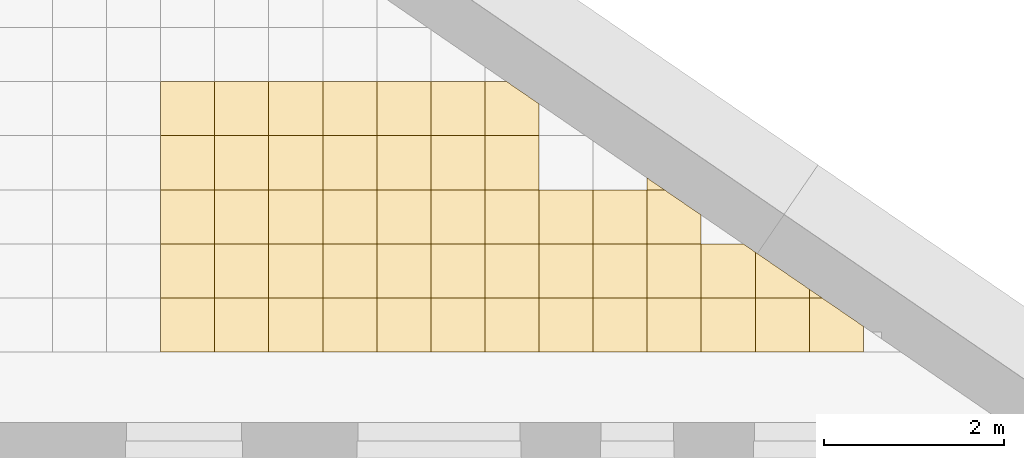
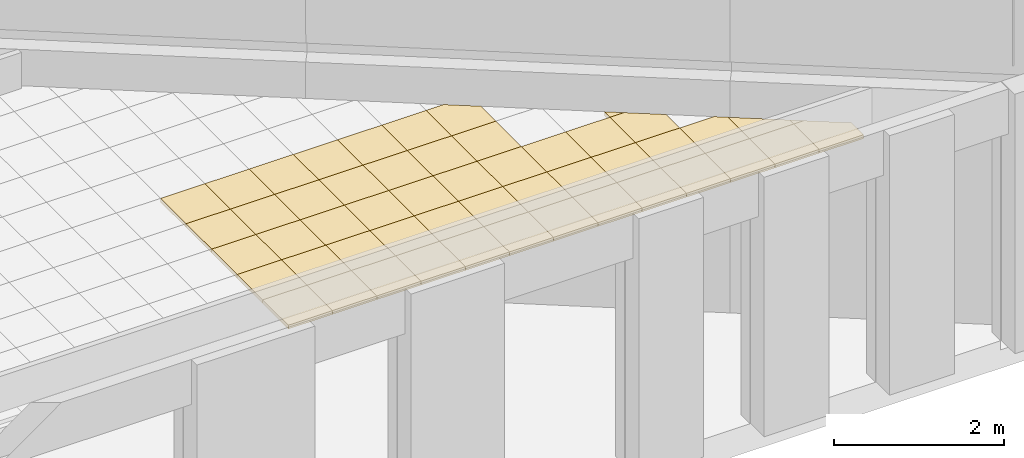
# One storey, part 77 of 79: 51 coverings.
"""IFC2X3 building model written with IfcOpenShell, lengths in millimetres."""

from ifc_helpers import new_model, entity, si_unit, converted_unit, derived_unit, money_unit, direction, frame, origin_with_axes, place, context, subcontext, project, spatial, faceted_brep, material, material_list, type_object, element, save


model = new_model("IFC2X3")

# Units and contexts
model_context = context("Model", 3, precision=0.01, world=origin_with_axes(), true_north=direction((0.0, 1.0)))
body_context = subcontext(model_context, "Body", "Model", "MODEL_VIEW")
ifc_project = project(units=[si_unit("LENGTHUNIT", "METRE", prefix="MILLI"), si_unit("AREAUNIT", "SQUARE_METRE"), si_unit("VOLUMEUNIT", "CUBIC_METRE"), converted_unit("PLANEANGLEUNIT", "DEGREE", entity("IfcPlaneAngleMeasure", 0.0174532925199), si_unit("PLANEANGLEUNIT", "RADIAN"), dimensions=[0, 0, 0, 0, 0, 0, 0]), si_unit("SOLIDANGLEUNIT", "STERADIAN"), money_unit("EUR"), converted_unit("TIMEUNIT", "Year", entity("IfcTimeMeasure", 31556926.0), si_unit("TIMEUNIT", "SECOND"), dimensions=[0, 0, 1, 0, 0, 0, 0]), si_unit("MASSUNIT", "GRAM", prefix="KILO"), si_unit("THERMODYNAMICTEMPERATUREUNIT", "DEGREE_CELSIUS"), si_unit("LUMINOUSINTENSITYUNIT", "LUMEN"), si_unit("ENERGYUNIT", "JOULE", prefix="MEGA"), derived_unit("THERMALCONDUCTANCEUNIT", [(si_unit("POWERUNIT", "WATT"), 1), (si_unit("LENGTHUNIT", "METRE"), -1), (si_unit("THERMODYNAMICTEMPERATUREUNIT", "KELVIN"), -1)]), derived_unit("SPECIFICHEATCAPACITYUNIT", [(si_unit("ENERGYUNIT", "JOULE"), 1), (si_unit("MASSUNIT", "GRAM", prefix="KILO"), -1), (si_unit("THERMODYNAMICTEMPERATUREUNIT", "KELVIN"), -1)]), derived_unit("MASSDENSITYUNIT", [(si_unit("MASSUNIT", "GRAM", prefix="KILO"), 1), (si_unit("VOLUMEUNIT", "CUBIC_METRE"), -1)])], contexts=[model_context])

# Site, building, storey
site_placement = place(None, origin_with_axes())
site = spatial("IfcSite", under=ifc_project, at=site_placement, Name="L.Koidula tn 11b", CompositionType="ELEMENT")
building_placement = place(site_placement, origin_with_axes())
building = spatial("IfcBuilding", under=site, at=building_placement, Name="Rakvere Riigigümnaasium", CompositionType="ELEMENT")
storey_placement = place(building_placement, frame((0.0, 0.0, 3720.0), z_axis=(0.0, 0.0, 1.0), x_axis=(1.0, 0.0, 0.0)))
storey = spatial("IfcBuildingStorey", under=building, at=storey_placement, Name="2.korrus +3,72", CompositionType="ELEMENT", Elevation=3720.0)

# Coverings
ifc_material_1 = material(Name="Karkass")
ifc_material_2 = material(Name="Kipsplaat")
ifc_material_list_1 = material_list([ifc_material_1, ifc_material_2])
covering_type_1 = type_object("IfcCoveringType", Name="SA-LV-Kips-moodul 55", PredefinedType="CEILING")
for number, where, z_axis, x_axis, name in (
    (1, (97109.8848284, 6290.45359412, 2750.0), (0.0, 0.0, 1.0), (1.0, 0.0, 0.0), "L-03"),
    (2, (98309.8847768, 6890.45359412, 2750.0), (0.0, 0.0, 1.0), (1.0, 0.0, 0.0), "L-03"),
):
    element("IfcCovering", number, at=place(storey_placement, frame(where, z_axis=z_axis, x_axis=x_axis)), inside=storey, type_object=covering_type_1, material=ifc_material_list_1, Name=name, PredefinedType="CEILING", context=body_context, shape_type="Brep", body=[
        faceted_brep([(600.0, 0.0, 12.5), (600.0, 0.0, 54.5), (0.0, 0.0, 54.5), (0.0, 0.0, 12.5), (600.0, 600.0, 12.5), (600.0, 600.0, 54.5), (0.0, 600.0, 54.5), (0.0, 600.0, 12.5)], [[[0, 1, 2, 3]], [[4, 5, 1, 0]], [[2, 1, 5, 6]], [[3, 2, 6, 7]], [[3, 7, 4, 0]], [[7, 6, 5, 4]]]),
        faceted_brep([(0.0, 0.0, 0.0), (600.0, 0.0, 0.0), (600.0, 0.0, 12.5), (0.0, 0.0, 12.5), (0.0, 600.0, 0.0), (600.0, 600.0, 0.0), (600.0, 600.0, 12.5), (0.0, 600.0, 12.5)], [[[0, 1, 2, 3]], [[0, 4, 5, 1]], [[1, 5, 6, 2]], [[3, 2, 6, 7]], [[4, 0, 3, 7]], [[5, 4, 7, 6]]]),
    ])
covering_1_placement = place(storey_placement, frame((96509.8848801, 7490.45359412, 2750.0), z_axis=(0.0, 0.0, 1.0), x_axis=(1.0, 0.0, 0.0)))
element("IfcCovering", 3, at=covering_1_placement, inside=storey, type_object=covering_type_1, material=ifc_material_list_1, Name="L-03", PredefinedType="CEILING", context=body_context, shape_type="Brep", body=[
    faceted_brep([(599.999948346, 0.0, 12.5), (599.999948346, 0.0, 54.5), (0.0, 0.0, 54.5), (0.0, 0.0, 12.5), (599.999948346, 600.0, 12.5), (599.999948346, 600.0, 54.5), (0.0, 600.0, 54.5), (0.0, 600.0, 12.5)], [[[0, 1, 2, 3]], [[4, 5, 1, 0]], [[2, 1, 5, 6]], [[3, 2, 6, 7]], [[3, 7, 4, 0]], [[7, 6, 5, 4]]]),
    faceted_brep([(0.0, 0.0, 0.0), (599.999948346, 0.0, 0.0), (599.999948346, 0.0, 12.5), (0.0, 0.0, 12.5), (0.0, 600.0, 0.0), (599.999948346, 600.0, 0.0), (599.999948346, 600.0, 12.5), (0.0, 600.0, 12.5)], [[[0, 1, 2, 3]], [[0, 4, 5, 1]], [[1, 5, 6, 2]], [[3, 2, 6, 7]], [[4, 0, 3, 7]], [[5, 4, 7, 6]]]),
])
covering_2_placement = place(storey_placement, frame((98309.8847768, 7490.45359412, 2750.0), z_axis=(0.0, 0.0, 1.0), x_axis=(1.0, 0.0, 0.0)))
element("IfcCovering", 4, at=covering_2_placement, inside=storey, type_object=covering_type_1, material=ifc_material_list_1, Name="L-03", PredefinedType="CEILING", context=body_context, shape_type="Brep", body=[
    faceted_brep([(600.0, 0.0, 12.5), (600.0, 0.0, 54.5), (0.0, 0.0, 54.5), (0.0, 0.0, 12.5), (600.0, 600.0, 12.5), (600.0, 600.0, 54.5), (0.0, 600.0, 54.5), (0.0, 600.0, 12.5)], [[[0, 1, 2, 3]], [[4, 5, 1, 0]], [[2, 1, 5, 6]], [[3, 2, 6, 7]], [[3, 7, 4, 0]], [[7, 6, 5, 4]]]),
    faceted_brep([(0.0, 0.0, 0.0), (600.0, 0.0, 0.0), (600.0, 0.0, 12.5), (0.0, 0.0, 12.5), (0.0, 600.0, 0.0), (600.0, 600.0, 0.0), (600.0, 600.0, 12.5), (0.0, 600.0, 12.5)], [[[0, 1, 2, 3]], [[0, 4, 5, 1]], [[1, 5, 6, 2]], [[3, 2, 6, 7]], [[4, 0, 3, 7]], [[5, 4, 7, 6]]]),
])
covering_3_placement = place(storey_placement, frame((96509.8848801, 8090.45359412, 2750.0), z_axis=(0.0, 0.0, 1.0), x_axis=(1.0, 0.0, 0.0)))
element("IfcCovering", 5, at=covering_3_placement, inside=storey, type_object=covering_type_1, material=ifc_material_list_1, Name="L-03", PredefinedType="CEILING", context=body_context, shape_type="Brep", body=[
    faceted_brep([(599.999948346, 0.0, 12.5), (599.999948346, 0.0, 54.5), (0.0, 0.0, 54.5), (0.0, 0.0, 12.5), (599.999948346, 600.0, 12.5), (599.999948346, 600.0, 54.5), (0.0, 600.0, 54.5), (0.0, 600.0, 12.5)], [[[0, 1, 2, 3]], [[4, 5, 1, 0]], [[2, 1, 5, 6]], [[3, 2, 6, 7]], [[3, 7, 4, 0]], [[7, 6, 5, 4]]]),
    faceted_brep([(0.0, 0.0, 0.0), (599.999948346, 0.0, 0.0), (599.999948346, 0.0, 12.5), (0.0, 0.0, 12.5), (0.0, 600.0, 0.0), (599.999948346, 600.0, 0.0), (599.999948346, 600.0, 12.5), (0.0, 600.0, 12.5)], [[[0, 1, 2, 3]], [[0, 4, 5, 1]], [[1, 5, 6, 2]], [[3, 2, 6, 7]], [[4, 0, 3, 7]], [[5, 4, 7, 6]]]),
])
covering_4_placement = place(storey_placement, frame((97109.8848284, 8090.45359412, 2750.0), z_axis=(0.0, 0.0, 1.0), x_axis=(1.0, 0.0, 0.0)))
element("IfcCovering", 6, at=covering_4_placement, inside=storey, type_object=covering_type_1, material=ifc_material_list_1, Name="L-03", PredefinedType="CEILING", context=body_context, shape_type="Brep", body=[
    faceted_brep([(600.0, 0.0, 12.5), (600.0, 0.0, 54.5), (0.0, 0.0, 54.5), (0.0, 0.0, 12.5), (600.0, 600.0, 12.5), (600.0, 600.0, 54.5), (0.0, 600.0, 54.5), (0.0, 600.0, 12.5)], [[[0, 1, 2, 3]], [[4, 5, 1, 0]], [[2, 1, 5, 6]], [[3, 2, 6, 7]], [[3, 7, 4, 0]], [[7, 6, 5, 4]]]),
    faceted_brep([(0.0, 0.0, 0.0), (600.0, 0.0, 0.0), (600.0, 0.0, 12.5), (0.0, 0.0, 12.5), (0.0, 600.0, 0.0), (600.0, 600.0, 0.0), (600.0, 600.0, 12.5), (0.0, 600.0, 12.5)], [[[0, 1, 2, 3]], [[0, 4, 5, 1]], [[1, 5, 6, 2]], [[3, 2, 6, 7]], [[4, 0, 3, 7]], [[5, 4, 7, 6]]]),
])
covering_5_placement = place(storey_placement, frame((96509.8848801, 8690.45359412, 2750.0), z_axis=(0.0, 0.0, 1.0), x_axis=(1.0, 0.0, 0.0)))
element("IfcCovering", 7, at=covering_5_placement, inside=storey, type_object=covering_type_1, material=ifc_material_list_1, Name="L-03", PredefinedType="CEILING", context=body_context, shape_type="Brep", body=[
    faceted_brep([(599.999948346, 0.0, 12.5), (599.999948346, 0.0, 54.5), (0.0, 0.0, 54.5), (0.0, 0.0, 12.5), (599.999948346, 600.0, 12.5), (599.999948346, 600.0, 54.5), (0.0, 600.0, 54.5), (0.0, 600.0, 12.5)], [[[0, 1, 2, 3]], [[4, 5, 1, 0]], [[2, 1, 5, 6]], [[3, 2, 6, 7]], [[3, 7, 4, 0]], [[7, 6, 5, 4]]]),
    faceted_brep([(0.0, 0.0, 0.0), (599.999948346, 0.0, 0.0), (599.999948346, 0.0, 12.5), (0.0, 0.0, 12.5), (0.0, 600.0, 0.0), (599.999948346, 600.0, 0.0), (599.999948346, 600.0, 12.5), (0.0, 600.0, 12.5)], [[[0, 1, 2, 3]], [[0, 4, 5, 1]], [[1, 5, 6, 2]], [[3, 2, 6, 7]], [[4, 0, 3, 7]], [[5, 4, 7, 6]]]),
])
covering_6_placement = place(storey_placement, frame((97109.8848284, 8690.45359412, 2750.0), z_axis=(0.0, 0.0, 1.0), x_axis=(1.0, 0.0, 0.0)))
element("IfcCovering", 8, at=covering_6_placement, inside=storey, type_object=covering_type_1, material=ifc_material_list_1, Name="L-03", PredefinedType="CEILING", context=body_context, shape_type="Brep", body=[
    faceted_brep([(600.0, 0.0, 12.5), (600.0, 0.0, 54.5), (0.0, 0.0, 54.5), (0.0, 0.0, 12.5), (600.0, 353.762002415, 12.5), (600.0, 353.762002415, 54.5), (240.988349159, 600.0, 54.5), (0.0, 600.0, 54.5), (0.0, 600.0, 12.5), (240.988349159, 600.0, 12.5)], [[[0, 1, 2, 3]], [[4, 5, 1, 0]], [[2, 1, 5, 6, 7]], [[3, 2, 7, 8]], [[3, 8, 9, 4, 0]], [[9, 6, 5, 4]], [[8, 7, 6, 9]]]),
    faceted_brep([(0.0, 0.0, 0.0), (600.0, 0.0, 0.0), (600.0, 0.0, 12.5), (0.0, 0.0, 12.5), (0.0, 600.0, 0.0), (240.988349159, 600.0, 0.0), (600.0, 353.762002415, 0.0), (600.0, 353.762002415, 12.5), (240.988349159, 600.0, 12.5), (0.0, 600.0, 12.5)], [[[0, 1, 2, 3]], [[0, 4, 5, 6, 1]], [[1, 6, 7, 2]], [[3, 2, 7, 8, 9]], [[4, 0, 3, 9]], [[5, 4, 9, 8]], [[6, 5, 8, 7]]]),
])
covering_7_placement = place(storey_placement, frame((97109.8848284, 7490.45359412, 2750.0), z_axis=(0.0, 0.0, 1.0), x_axis=(1.0, 0.0, 0.0)))
element("IfcCovering", 9, at=covering_7_placement, inside=storey, type_object=covering_type_1, material=ifc_material_list_1, Name="L-03", PredefinedType="CEILING", context=body_context, shape_type="Brep", body=[
    faceted_brep([(600.0, 0.0, 12.5), (600.0, 0.0, 54.5), (0.0, 0.0, 54.5), (0.0, 0.0, 12.5), (600.0, 600.0, 12.5), (600.0, 600.0, 54.5), (0.0, 600.0, 54.5), (0.0, 600.0, 12.5)], [[[0, 1, 2, 3]], [[4, 5, 1, 0]], [[2, 1, 5, 6]], [[3, 2, 6, 7]], [[3, 7, 4, 0]], [[7, 6, 5, 4]]]),
    faceted_brep([(0.0, 0.0, 0.0), (600.0, 0.0, 0.0), (600.0, 0.0, 12.5), (0.0, 0.0, 12.5), (0.0, 600.0, 0.0), (600.0, 600.0, 0.0), (600.0, 600.0, 12.5), (0.0, 600.0, 12.5)], [[[0, 1, 2, 3]], [[0, 4, 5, 1]], [[1, 5, 6, 2]], [[3, 2, 6, 7]], [[4, 0, 3, 7]], [[5, 4, 7, 6]]]),
])
for number, where, z_axis, x_axis, name in (
    (10, (97709.8848284, 6890.45359412, 2750.0), (0.0, 0.0, 1.0), (1.0, 0.0, 0.0), "L-03"),
    (11, (97709.8848284, 6290.45359412, 2750.0), (0.0, 0.0, 1.0), (1.0, 0.0, 0.0), "L-03"),
    (12, (96509.8848801, 6890.45359412, 2750.0), (0.0, 0.0, 1.0), (1.0, 0.0, 0.0), "L-03"),
):
    element("IfcCovering", number, at=place(storey_placement, frame(where, z_axis=z_axis, x_axis=x_axis)), inside=storey, type_object=covering_type_1, material=ifc_material_list_1, Name=name, PredefinedType="CEILING", context=body_context, shape_type="Brep", body=[
        faceted_brep([(599.999948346, 0.0, 12.5), (599.999948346, 0.0, 54.5), (0.0, 0.0, 54.5), (0.0, 0.0, 12.5), (599.999948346, 600.0, 12.5), (599.999948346, 600.0, 54.5), (0.0, 600.0, 54.5), (0.0, 600.0, 12.5)], [[[0, 1, 2, 3]], [[4, 5, 1, 0]], [[2, 1, 5, 6]], [[3, 2, 6, 7]], [[3, 7, 4, 0]], [[7, 6, 5, 4]]]),
        faceted_brep([(0.0, 0.0, 0.0), (599.999948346, 0.0, 0.0), (599.999948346, 0.0, 12.5), (0.0, 0.0, 12.5), (0.0, 600.0, 0.0), (599.999948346, 600.0, 0.0), (599.999948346, 600.0, 12.5), (0.0, 600.0, 12.5)], [[[0, 1, 2, 3]], [[0, 4, 5, 1]], [[1, 5, 6, 2]], [[3, 2, 6, 7]], [[4, 0, 3, 7]], [[5, 4, 7, 6]]]),
    ])
for number, where, z_axis, x_axis, name in (
    (13, (99509.8847251, 6290.45359412, 2750.0), (0.0, 0.0, 1.0), (1.0, 0.0, 0.0), "L-03"),
    (14, (94709.8849318, 6890.45359412, 2750.0), (0.0, 0.0, 1.0), (1.0, 0.0, 0.0), "L-03"),
):
    element("IfcCovering", number, at=place(storey_placement, frame(where, z_axis=z_axis, x_axis=x_axis)), inside=storey, type_object=covering_type_1, material=ifc_material_list_1, Name=name, PredefinedType="CEILING", context=body_context, shape_type="Brep", body=[
        faceted_brep([(600.0, 0.0, 12.5), (600.0, 0.0, 54.5), (0.0, 0.0, 54.5), (0.0, 0.0, 12.5), (600.0, 600.0, 12.5), (600.0, 600.0, 54.5), (0.0, 600.0, 54.5), (0.0, 600.0, 12.5)], [[[0, 1, 2, 3]], [[4, 5, 1, 0]], [[2, 1, 5, 6]], [[3, 2, 6, 7]], [[3, 7, 4, 0]], [[7, 6, 5, 4]]]),
        faceted_brep([(0.0, 0.0, 0.0), (600.0, 0.0, 0.0), (600.0, 0.0, 12.5), (0.0, 0.0, 12.5), (0.0, 600.0, 0.0), (600.0, 600.0, 0.0), (600.0, 600.0, 12.5), (0.0, 600.0, 12.5)], [[[0, 1, 2, 3]], [[0, 4, 5, 1]], [[1, 5, 6, 2]], [[3, 2, 6, 7]], [[4, 0, 3, 7]], [[5, 4, 7, 6]]]),
    ])
covering_8_placement = place(storey_placement, frame((97709.8848284, 7490.45359412, 2750.0), z_axis=(0.0, 0.0, 1.0), x_axis=(1.0, 0.0, 0.0)))
element("IfcCovering", 15, at=covering_8_placement, inside=storey, type_object=covering_type_1, material=ifc_material_list_1, Name="L-03", PredefinedType="CEILING", context=body_context, shape_type="Brep", body=[
    faceted_brep([(599.999948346, 0.0, 12.5), (599.999948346, 0.0, 54.5), (0.0, 0.0, 54.5), (0.0, 0.0, 12.5), (599.999948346, 600.0, 12.5), (599.999948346, 600.0, 54.5), (0.0, 600.0, 54.5), (0.0, 600.0, 12.5)], [[[0, 1, 2, 3]], [[4, 5, 1, 0]], [[2, 1, 5, 6]], [[3, 2, 6, 7]], [[3, 7, 4, 0]], [[7, 6, 5, 4]]]),
    faceted_brep([(0.0, 0.0, 0.0), (599.999948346, 0.0, 0.0), (599.999948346, 0.0, 12.5), (0.0, 0.0, 12.5), (0.0, 600.0, 0.0), (599.999948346, 600.0, 0.0), (599.999948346, 600.0, 12.5), (0.0, 600.0, 12.5)], [[[0, 1, 2, 3]], [[0, 4, 5, 1]], [[1, 5, 6, 2]], [[3, 2, 6, 7]], [[4, 0, 3, 7]], [[5, 4, 7, 6]]]),
])
for number, where, z_axis, x_axis, name in (
    (16, (94709.8849318, 6290.45359412, 2750.0), (0.0, 0.0, 1.0), (1.0, 0.0, 0.0), "L-03"),
    (17, (95909.8848801, 7490.45359412, 2750.0), (0.0, 0.0, 1.0), (1.0, 0.0, 0.0), "L-03"),
):
    element("IfcCovering", number, at=place(storey_placement, frame(where, z_axis=z_axis, x_axis=x_axis)), inside=storey, type_object=covering_type_1, material=ifc_material_list_1, Name=name, PredefinedType="CEILING", context=body_context, shape_type="Brep", body=[
        faceted_brep([(600.0, 0.0, 12.5), (600.0, 0.0, 54.5), (0.0, 0.0, 54.5), (0.0, 0.0, 12.5), (600.0, 600.0, 12.5), (600.0, 600.0, 54.5), (0.0, 600.0, 54.5), (0.0, 600.0, 12.5)], [[[0, 1, 2, 3]], [[4, 5, 1, 0]], [[2, 1, 5, 6]], [[3, 2, 6, 7]], [[3, 7, 4, 0]], [[7, 6, 5, 4]]]),
        faceted_brep([(0.0, 0.0, 0.0), (600.0, 0.0, 0.0), (600.0, 0.0, 12.5), (0.0, 0.0, 12.5), (0.0, 600.0, 0.0), (600.0, 600.0, 0.0), (600.0, 600.0, 12.5), (0.0, 600.0, 12.5)], [[[0, 1, 2, 3]], [[0, 4, 5, 1]], [[1, 5, 6, 2]], [[3, 2, 6, 7]], [[4, 0, 3, 7]], [[5, 4, 7, 6]]]),
    ])
covering_9_placement = place(storey_placement, frame((98909.8847768, 6890.45359412, 2750.0), z_axis=(0.0, 0.0, 1.0), x_axis=(1.0, 0.0, 0.0)))
element("IfcCovering", 18, at=covering_9_placement, inside=storey, type_object=covering_type_1, material=ifc_material_list_1, Name="L-03", PredefinedType="CEILING", context=body_context, shape_type="Brep", body=[
    faceted_brep([(599.999948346, 0.0, 12.5), (599.999948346, 0.0, 54.5), (0.0, 0.0, 54.5), (0.0, 0.0, 12.5), (599.999948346, 600.0, 12.5), (599.999948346, 600.0, 54.5), (0.0, 600.0, 54.5), (0.0, 600.0, 12.5)], [[[0, 1, 2, 3]], [[4, 5, 1, 0]], [[2, 1, 5, 6]], [[3, 2, 6, 7]], [[3, 7, 4, 0]], [[7, 6, 5, 4]]]),
    faceted_brep([(0.0, 0.0, 0.0), (599.999948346, 0.0, 0.0), (599.999948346, 0.0, 12.5), (0.0, 0.0, 12.5), (0.0, 600.0, 0.0), (599.999948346, 600.0, 0.0), (599.999948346, 600.0, 12.5), (0.0, 600.0, 12.5)], [[[0, 1, 2, 3]], [[0, 4, 5, 1]], [[1, 5, 6, 2]], [[3, 2, 6, 7]], [[4, 0, 3, 7]], [[5, 4, 7, 6]]]),
])
for number, where, z_axis, x_axis, name in (
    (19, (93509.8849834, 6290.45359412, 2750.0), (0.0, 0.0, 1.0), (1.0, 0.0, 0.0), "L-03"),
    (20, (95909.8848801, 8090.45359412, 2750.0), (0.0, 0.0, 1.0), (1.0, 0.0, 0.0), "L-03"),
):
    element("IfcCovering", number, at=place(storey_placement, frame(where, z_axis=z_axis, x_axis=x_axis)), inside=storey, type_object=covering_type_1, material=ifc_material_list_1, Name=name, PredefinedType="CEILING", context=body_context, shape_type="Brep", body=[
        faceted_brep([(600.0, 0.0, 12.5), (600.0, 0.0, 54.5), (0.0, 0.0, 54.5), (0.0, 0.0, 12.5), (600.0, 600.0, 12.5), (600.0, 600.0, 54.5), (0.0, 600.0, 54.5), (0.0, 600.0, 12.5)], [[[0, 1, 2, 3]], [[4, 5, 1, 0]], [[2, 1, 5, 6]], [[3, 2, 6, 7]], [[3, 7, 4, 0]], [[7, 6, 5, 4]]]),
        faceted_brep([(0.0, 0.0, 0.0), (600.0, 0.0, 0.0), (600.0, 0.0, 12.5), (0.0, 0.0, 12.5), (0.0, 600.0, 0.0), (600.0, 600.0, 0.0), (600.0, 600.0, 12.5), (0.0, 600.0, 12.5)], [[[0, 1, 2, 3]], [[0, 4, 5, 1]], [[1, 5, 6, 2]], [[3, 2, 6, 7]], [[4, 0, 3, 7]], [[5, 4, 7, 6]]]),
    ])
covering_10_placement = place(storey_placement, frame((100709.884673, 6290.45359412, 2750.0), z_axis=(0.0, 0.0, 1.0), x_axis=(1.0, 0.0, 0.0)))
element("IfcCovering", 21, at=covering_10_placement, inside=storey, type_object=covering_type_1, material=ifc_material_list_1, Name="L-03", PredefinedType="CEILING", context=body_context, shape_type="Brep", body=[
    faceted_brep([(600.0, 0.0, 12.5), (600.0, 0.0, 54.5), (0.0, 0.0, 54.5), (0.0, 0.0, 12.5), (600.0, 284.60252788, 12.5), (600.0, 284.60252788, 54.5), (140.154776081, 600.0, 54.5), (0.0, 600.0, 54.5), (0.0, 600.0, 12.5), (140.154776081, 600.0, 12.5)], [[[0, 1, 2, 3]], [[4, 5, 1, 0]], [[2, 1, 5, 6, 7]], [[3, 2, 7, 8]], [[3, 8, 9, 4, 0]], [[9, 6, 5, 4]], [[8, 7, 6, 9]]]),
    faceted_brep([(0.0, 0.0, 0.0), (600.0, 0.0, 0.0), (600.0, 0.0, 12.5), (0.0, 0.0, 12.5), (0.0, 600.0, 0.0), (140.154776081, 600.0, 0.0), (600.0, 284.60252788, 0.0), (600.0, 284.60252788, 12.5), (140.154776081, 600.0, 12.5), (0.0, 600.0, 12.5)], [[[0, 1, 2, 3]], [[0, 4, 5, 6, 1]], [[1, 6, 7, 2]], [[3, 2, 7, 8, 9]], [[4, 0, 3, 9]], [[5, 4, 9, 8]], [[6, 5, 8, 7]]]),
])
for number, where, z_axis, x_axis, name in (
    (22, (94709.8849318, 8090.45359412, 2750.0), (0.0, 0.0, 1.0), (1.0, 0.0, 0.0), "L-03"),
    (23, (97109.8848284, 6890.45359412, 2750.0), (0.0, 0.0, 1.0), (1.0, 0.0, 0.0), "L-03"),
    (24, (94709.8849318, 8690.45359412, 2750.0), (0.0, 0.0, 1.0), (1.0, 0.0, 0.0), "L-03"),
    (25, (93509.8849834, 6890.45359412, 2750.0), (0.0, 0.0, 1.0), (1.0, 0.0, 0.0), "L-03"),
    (26, (95909.8848801, 8690.45359412, 2750.0), (0.0, 0.0, 1.0), (1.0, 0.0, 0.0), "L-03"),
    (27, (94709.8849318, 7490.45359412, 2750.0), (0.0, 0.0, 1.0), (1.0, 0.0, 0.0), "L-03"),
    (28, (98309.8847768, 6290.45359412, 2750.0), (0.0, 0.0, 1.0), (1.0, 0.0, 0.0), "L-03"),
):
    element("IfcCovering", number, at=place(storey_placement, frame(where, z_axis=z_axis, x_axis=x_axis)), inside=storey, type_object=covering_type_1, material=ifc_material_list_1, Name=name, PredefinedType="CEILING", context=body_context, shape_type="Brep", body=[
        faceted_brep([(600.0, 0.0, 12.5), (600.0, 0.0, 54.5), (0.0, 0.0, 54.5), (0.0, 0.0, 12.5), (600.0, 600.0, 12.5), (600.0, 600.0, 54.5), (0.0, 600.0, 54.5), (0.0, 600.0, 12.5)], [[[0, 1, 2, 3]], [[4, 5, 1, 0]], [[2, 1, 5, 6]], [[3, 2, 6, 7]], [[3, 7, 4, 0]], [[7, 6, 5, 4]]]),
        faceted_brep([(0.0, 0.0, 0.0), (600.0, 0.0, 0.0), (600.0, 0.0, 12.5), (0.0, 0.0, 12.5), (0.0, 600.0, 0.0), (600.0, 600.0, 0.0), (600.0, 600.0, 12.5), (0.0, 600.0, 12.5)], [[[0, 1, 2, 3]], [[0, 4, 5, 1]], [[1, 5, 6, 2]], [[3, 2, 6, 7]], [[4, 0, 3, 7]], [[5, 4, 7, 6]]]),
    ])
covering_11_placement = place(storey_placement, frame((95309.8849318, 6890.45359412, 2750.0), z_axis=(0.0, 0.0, 1.0), x_axis=(1.0, 0.0, 0.0)))
element("IfcCovering", 29, at=covering_11_placement, inside=storey, type_object=covering_type_1, material=ifc_material_list_1, Name="L-03", PredefinedType="CEILING", context=body_context, shape_type="Brep", body=[
    faceted_brep([(599.999948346, 0.0, 12.5), (599.999948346, 0.0, 54.5), (0.0, 0.0, 54.5), (0.0, 0.0, 12.5), (599.999948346, 600.0, 12.5), (599.999948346, 600.0, 54.5), (0.0, 600.0, 54.5), (0.0, 600.0, 12.5)], [[[0, 1, 2, 3]], [[4, 5, 1, 0]], [[2, 1, 5, 6]], [[3, 2, 6, 7]], [[3, 7, 4, 0]], [[7, 6, 5, 4]]]),
    faceted_brep([(0.0, 0.0, 0.0), (599.999948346, 0.0, 0.0), (599.999948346, 0.0, 12.5), (0.0, 0.0, 12.5), (0.0, 600.0, 0.0), (599.999948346, 600.0, 0.0), (599.999948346, 600.0, 12.5), (0.0, 600.0, 12.5)], [[[0, 1, 2, 3]], [[0, 4, 5, 1]], [[1, 5, 6, 2]], [[3, 2, 6, 7]], [[4, 0, 3, 7]], [[5, 4, 7, 6]]]),
])
covering_12_placement = place(storey_placement, frame((98909.8847768, 7490.45359412, 2750.0), z_axis=(0.0, 0.0, 1.0), x_axis=(1.0, 0.0, 0.0)))
element("IfcCovering", 30, at=covering_12_placement, inside=storey, type_object=covering_type_1, material=ifc_material_list_1, Name="L-03", PredefinedType="CEILING", context=body_context, shape_type="Brep", body=[
    faceted_brep([(599.999948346, 0.0, 12.5), (599.999948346, 0.0, 54.5), (0.0, 0.0, 54.5), (0.0, 0.0, 12.5), (599.999948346, 319.18327865, 12.5), (599.999948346, 319.18327865, 54.5), (190.572988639, 600.0, 54.5), (0.0, 600.0, 54.5), (0.0, 600.0, 12.5), (190.572988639, 600.0, 12.5)], [[[0, 1, 2, 3]], [[4, 5, 1, 0]], [[2, 1, 5, 6, 7]], [[3, 2, 7, 8]], [[3, 8, 9, 4, 0]], [[9, 6, 5, 4]], [[8, 7, 6, 9]]]),
    faceted_brep([(0.0, 0.0, 0.0), (599.999948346, 0.0, 0.0), (599.999948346, 0.0, 12.5), (0.0, 0.0, 12.5), (0.0, 600.0, 0.0), (190.572988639, 600.0, 0.0), (599.999948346, 319.18327865, 0.0), (599.999948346, 319.18327865, 12.5), (190.572988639, 600.0, 12.5), (0.0, 600.0, 12.5)], [[[0, 1, 2, 3]], [[0, 4, 5, 6, 1]], [[1, 6, 7, 2]], [[3, 2, 7, 8, 9]], [[4, 0, 3, 9]], [[5, 4, 9, 8]], [[6, 5, 8, 7]]]),
])
covering_13_placement = place(storey_placement, frame((95309.8849318, 6290.45359412, 2750.0), z_axis=(0.0, 0.0, 1.0), x_axis=(1.0, 0.0, 0.0)))
element("IfcCovering", 31, at=covering_13_placement, inside=storey, type_object=covering_type_1, material=ifc_material_list_1, Name="L-03", PredefinedType="CEILING", context=body_context, shape_type="Brep", body=[
    faceted_brep([(599.999948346, 0.0, 12.5), (599.999948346, 0.0, 54.5), (0.0, 0.0, 54.5), (0.0, 0.0, 12.5), (599.999948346, 600.0, 12.5), (599.999948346, 600.0, 54.5), (0.0, 600.0, 54.5), (0.0, 600.0, 12.5)], [[[0, 1, 2, 3]], [[4, 5, 1, 0]], [[2, 1, 5, 6]], [[3, 2, 6, 7]], [[3, 7, 4, 0]], [[7, 6, 5, 4]]]),
    faceted_brep([(0.0, 0.0, 0.0), (599.999948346, 0.0, 0.0), (599.999948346, 0.0, 12.5), (0.0, 0.0, 12.5), (0.0, 600.0, 0.0), (599.999948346, 600.0, 0.0), (599.999948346, 600.0, 12.5), (0.0, 600.0, 12.5)], [[[0, 1, 2, 3]], [[0, 4, 5, 1]], [[1, 5, 6, 2]], [[3, 2, 6, 7]], [[4, 0, 3, 7]], [[5, 4, 7, 6]]]),
])
covering_14_placement = place(storey_placement, frame((98909.8847768, 8090.45359412, 2750.0), z_axis=(0.0, 0.0, 1.0), x_axis=(1.0, 0.0, 0.0)))
element("IfcCovering", 32, at=covering_14_placement, inside=storey, type_object=covering_type_1, material=ifc_material_list_1, Name="L-03", PredefinedType="CEILING", context=body_context, shape_type="Brep", body=[
    faceted_brep([(190.572988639, 0.0, 12.5), (190.572988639, 0.0, 54.5), (0.0, 0.0, 54.5), (0.0, 0.0, 12.5), (0.0, 130.70971654, 12.5), (0.0, 130.70971654, 54.5)], [[[0, 1, 2, 3]], [[4, 5, 1, 0]], [[2, 1, 5]], [[3, 2, 5, 4]], [[3, 4, 0]]]),
    faceted_brep([(0.0, 0.0, 0.0), (190.572988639, 0.0, 0.0), (190.572988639, 0.0, 12.5), (0.0, 0.0, 12.5), (0.0, 130.70971654, 0.0), (0.0, 130.70971654, 12.5)], [[[0, 1, 2, 3]], [[0, 4, 1]], [[1, 4, 5, 2]], [[3, 2, 5]], [[4, 0, 3, 5]]]),
])
covering_15_placement = place(storey_placement, frame((100109.884725, 6890.45359412, 2750.0), z_axis=(0.0, 0.0, 1.0), x_axis=(1.0, 0.0, 0.0)))
element("IfcCovering", 33, at=covering_15_placement, inside=storey, type_object=covering_type_1, material=ifc_material_list_1, Name="L-03", PredefinedType="CEILING", context=body_context, shape_type="Brep", body=[
    faceted_brep([(599.992801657, 0.0, 12.5), (599.992801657, 0.0, 54.5), (0.0, 0.0, 54.5), (0.0, 0.0, 12.5), (599.992801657, 96.1357947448, 12.5), (599.992801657, 96.1357947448, 54.5), (0.0, 507.657330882, 54.5), (0.0, 507.657330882, 12.5)], [[[0, 1, 2, 3]], [[4, 5, 1, 0]], [[2, 1, 5, 6]], [[3, 2, 6, 7]], [[3, 7, 4, 0]], [[7, 6, 5, 4]]]),
    faceted_brep([(0.0, 0.0, 0.0), (599.992801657, 0.0, 0.0), (599.992801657, 0.0, 12.5), (0.0, 0.0, 12.5), (0.0, 507.657330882, 0.0), (599.992801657, 96.1357947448, 0.0), (599.992801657, 96.1357947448, 12.5), (0.0, 507.657330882, 12.5)], [[[0, 1, 2, 3]], [[0, 4, 5, 1]], [[1, 5, 6, 2]], [[3, 2, 6, 7]], [[4, 0, 3, 7]], [[5, 4, 7, 6]]]),
])
covering_16_placement = place(storey_placement, frame((99509.8847251, 6890.45359412, 2750.0), z_axis=(0.0, 0.0, 1.0), x_axis=(1.0, 0.0, 0.0)))
element("IfcCovering", 34, at=covering_16_placement, inside=storey, type_object=covering_type_1, material=ifc_material_list_1, Name="L-03", PredefinedType="CEILING", context=body_context, shape_type="Brep", body=[
    faceted_brep([(600.0, 0.0, 12.5), (600.0, 0.0, 54.5), (0.0, 0.0, 54.5), (0.0, 0.0, 12.5), (600.0, 507.65543909, 12.5), (600.0, 507.65543909, 54.5), (465.362886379, 600.0, 54.5), (0.0, 600.0, 54.5), (0.0, 600.0, 12.5), (465.362886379, 600.0, 12.5)], [[[0, 1, 2, 3]], [[4, 5, 1, 0]], [[2, 1, 5, 6, 7]], [[3, 2, 7, 8]], [[3, 8, 9, 4, 0]], [[9, 6, 5, 4]], [[8, 7, 6, 9]]]),
    faceted_brep([(0.0, 0.0, 0.0), (600.0, 0.0, 0.0), (600.0, 0.0, 12.5), (0.0, 0.0, 12.5), (0.0, 600.0, 0.0), (465.362886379, 600.0, 0.0), (600.0, 507.65543909, 0.0), (600.0, 507.65543909, 12.5), (465.362886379, 600.0, 12.5), (0.0, 600.0, 12.5)], [[[0, 1, 2, 3]], [[0, 4, 5, 6, 1]], [[1, 6, 7, 2]], [[3, 2, 7, 8, 9]], [[4, 0, 3, 9]], [[5, 4, 9, 8]], [[6, 5, 8, 7]]]),
])
for number, where, z_axis, x_axis, name in (
    (35, (96509.8848801, 6290.45359412, 2750.0), (0.0, 0.0, 1.0), (1.0, 0.0, 0.0), "L-03"),
    (36, (95309.8849318, 7490.45359412, 2750.0), (0.0, 0.0, 1.0), (1.0, 0.0, 0.0), "L-03"),
):
    element("IfcCovering", number, at=place(storey_placement, frame(where, z_axis=z_axis, x_axis=x_axis)), inside=storey, type_object=covering_type_1, material=ifc_material_list_1, Name=name, PredefinedType="CEILING", context=body_context, shape_type="Brep", body=[
        faceted_brep([(599.999948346, 0.0, 12.5), (599.999948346, 0.0, 54.5), (0.0, 0.0, 54.5), (0.0, 0.0, 12.5), (599.999948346, 600.0, 12.5), (599.999948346, 600.0, 54.5), (0.0, 600.0, 54.5), (0.0, 600.0, 12.5)], [[[0, 1, 2, 3]], [[4, 5, 1, 0]], [[2, 1, 5, 6]], [[3, 2, 6, 7]], [[3, 7, 4, 0]], [[7, 6, 5, 4]]]),
        faceted_brep([(0.0, 0.0, 0.0), (599.999948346, 0.0, 0.0), (599.999948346, 0.0, 12.5), (0.0, 0.0, 12.5), (0.0, 600.0, 0.0), (599.999948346, 600.0, 0.0), (599.999948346, 600.0, 12.5), (0.0, 600.0, 12.5)], [[[0, 1, 2, 3]], [[0, 4, 5, 1]], [[1, 5, 6, 2]], [[3, 2, 6, 7]], [[4, 0, 3, 7]], [[5, 4, 7, 6]]]),
    ])
covering_17_placement = place(storey_placement, frame((95909.8848801, 6890.45359412, 2750.0), z_axis=(0.0, 0.0, 1.0), x_axis=(1.0, 0.0, 0.0)))
element("IfcCovering", 37, at=covering_17_placement, inside=storey, type_object=covering_type_1, material=ifc_material_list_1, Name="L-03", PredefinedType="CEILING", context=body_context, shape_type="Brep", body=[
    faceted_brep([(600.0, 0.0, 12.5), (600.0, 0.0, 54.5), (0.0, 0.0, 54.5), (0.0, 0.0, 12.5), (600.0, 600.0, 12.5), (600.0, 600.0, 54.5), (0.0, 600.0, 54.5), (0.0, 600.0, 12.5)], [[[0, 1, 2, 3]], [[4, 5, 1, 0]], [[2, 1, 5, 6]], [[3, 2, 6, 7]], [[3, 7, 4, 0]], [[7, 6, 5, 4]]]),
    faceted_brep([(0.0, 0.0, 0.0), (600.0, 0.0, 0.0), (600.0, 0.0, 12.5), (0.0, 0.0, 12.5), (0.0, 600.0, 0.0), (600.0, 600.0, 0.0), (600.0, 600.0, 12.5), (0.0, 600.0, 12.5)], [[[0, 1, 2, 3]], [[0, 4, 5, 1]], [[1, 5, 6, 2]], [[3, 2, 6, 7]], [[4, 0, 3, 7]], [[5, 4, 7, 6]]]),
])
covering_18_placement = place(storey_placement, frame((100109.884725, 6290.45359412, 2750.0), z_axis=(0.0, 0.0, 1.0), x_axis=(1.0, 0.0, 0.0)))
element("IfcCovering", 38, at=covering_18_placement, inside=storey, type_object=covering_type_1, material=ifc_material_list_1, Name="L-03", PredefinedType="CEILING", context=body_context, shape_type="Brep", body=[
    faceted_brep([(599.999948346, 0.0, 12.5), (599.999948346, 0.0, 54.5), (0.0, 0.0, 54.5), (0.0, 0.0, 12.5), (599.992801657, 600.0, 12.5), (599.992801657, 600.0, 54.5), (0.0, 600.0, 54.5), (0.0, 600.0, 12.5)], [[[0, 1, 2, 3]], [[4, 5, 1, 0]], [[2, 1, 5, 6]], [[3, 2, 6, 7]], [[3, 7, 4, 0]], [[7, 6, 5, 4]]]),
    faceted_brep([(0.0, 0.0, 0.0), (599.999948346, 0.0, 0.0), (599.999948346, 0.0, 12.5), (0.0, 0.0, 12.5), (0.0, 600.0, 0.0), (599.992801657, 600.0, 0.0), (599.992801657, 600.0, 12.5), (0.0, 600.0, 12.5)], [[[0, 1, 2, 3]], [[0, 4, 5, 1]], [[1, 5, 6, 2]], [[3, 2, 6, 7]], [[4, 0, 3, 7]], [[5, 4, 7, 6]]]),
])
covering_19_placement = place(storey_placement, frame((95909.8848801, 6290.45359412, 2750.0), z_axis=(0.0, 0.0, 1.0), x_axis=(1.0, 0.0, 0.0)))
element("IfcCovering", 39, at=covering_19_placement, inside=storey, type_object=covering_type_1, material=ifc_material_list_1, Name="L-03", PredefinedType="CEILING", context=body_context, shape_type="Brep", body=[
    faceted_brep([(600.0, 0.0, 12.5), (600.0, 0.0, 54.5), (0.0, 0.0, 54.5), (0.0, 0.0, 12.5), (600.0, 600.0, 12.5), (600.0, 600.0, 54.5), (0.0, 600.0, 54.5), (0.0, 600.0, 12.5)], [[[0, 1, 2, 3]], [[4, 5, 1, 0]], [[2, 1, 5, 6]], [[3, 2, 6, 7]], [[3, 7, 4, 0]], [[7, 6, 5, 4]]]),
    faceted_brep([(0.0, 0.0, 0.0), (600.0, 0.0, 0.0), (600.0, 0.0, 12.5), (0.0, 0.0, 12.5), (0.0, 600.0, 0.0), (600.0, 600.0, 0.0), (600.0, 600.0, 12.5), (0.0, 600.0, 12.5)], [[[0, 1, 2, 3]], [[0, 4, 5, 1]], [[1, 5, 6, 2]], [[3, 2, 6, 7]], [[4, 0, 3, 7]], [[5, 4, 7, 6]]]),
])
for number, where, z_axis, x_axis, name in (
    (40, (98909.8847768, 6290.45359412, 2750.0), (0.0, 0.0, 1.0), (1.0, 0.0, 0.0), "L-03"),
    (41, (95309.8849318, 8690.45359412, 2750.0), (0.0, 0.0, 1.0), (1.0, 0.0, 0.0), "L-03"),
    (42, (95309.8849318, 8090.45359412, 2750.0), (0.0, 0.0, 1.0), (1.0, 0.0, 0.0), "L-03"),
    (43, (94109.8849834, 8090.45359412, 2750.0), (0.0, 0.0, 1.0), (1.0, 0.0, 0.0), "L-03"),
    (44, (94109.8849834, 7490.45359412, 2750.0), (0.0, 0.0, 1.0), (1.0, 0.0, 0.0), "L-03"),
    (45, (94109.8849834, 8690.45359412, 2750.0), (0.0, 0.0, 1.0), (1.0, 0.0, 0.0), "L-03"),
    (46, (94109.8849834, 6890.45359412, 2750.0), (0.0, 0.0, 1.0), (1.0, 0.0, 0.0), "L-03"),
    (47, (94109.8849834, 6290.45359412, 2750.0), (0.0, 0.0, 1.0), (1.0, 0.0, 0.0), "L-03"),
):
    element("IfcCovering", number, at=place(storey_placement, frame(where, z_axis=z_axis, x_axis=x_axis)), inside=storey, type_object=covering_type_1, material=ifc_material_list_1, Name=name, PredefinedType="CEILING", context=body_context, shape_type="Brep", body=[
        faceted_brep([(599.999948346, 0.0, 12.5), (599.999948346, 0.0, 54.5), (0.0, 0.0, 54.5), (0.0, 0.0, 12.5), (599.999948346, 600.0, 12.5), (599.999948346, 600.0, 54.5), (0.0, 600.0, 54.5), (0.0, 600.0, 12.5)], [[[0, 1, 2, 3]], [[4, 5, 1, 0]], [[2, 1, 5, 6]], [[3, 2, 6, 7]], [[3, 7, 4, 0]], [[7, 6, 5, 4]]]),
        faceted_brep([(0.0, 0.0, 0.0), (599.999948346, 0.0, 0.0), (599.999948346, 0.0, 12.5), (0.0, 0.0, 12.5), (0.0, 600.0, 0.0), (599.999948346, 600.0, 0.0), (599.999948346, 600.0, 12.5), (0.0, 600.0, 12.5)], [[[0, 1, 2, 3]], [[0, 4, 5, 1]], [[1, 5, 6, 2]], [[3, 2, 6, 7]], [[4, 0, 3, 7]], [[5, 4, 7, 6]]]),
    ])
for number, where, z_axis, x_axis, name in (
    (48, (93509.8849834, 8690.45359412, 2750.0), (0.0, 0.0, 1.0), (1.0, 0.0, 0.0), "L-03"),
    (49, (93509.8849834, 8090.45359412, 2750.0), (0.0, 0.0, 1.0), (1.0, 0.0, 0.0), "L-03"),
    (50, (93509.8849834, 7490.45359412, 2750.0), (0.0, 0.0, 1.0), (1.0, 0.0, 0.0), "L-03"),
):
    element("IfcCovering", number, at=place(storey_placement, frame(where, z_axis=z_axis, x_axis=x_axis)), inside=storey, type_object=covering_type_1, material=ifc_material_list_1, Name=name, PredefinedType="CEILING", context=body_context, shape_type="Brep", body=[
        faceted_brep([(600.0, 0.0, 12.5), (600.0, 0.0, 54.5), (0.0, 0.0, 54.5), (0.0, 0.0, 12.5), (600.0, 600.0, 12.5), (600.0, 600.0, 54.5), (0.0, 600.0, 54.5), (0.0, 600.0, 12.5)], [[[0, 1, 2, 3]], [[4, 5, 1, 0]], [[2, 1, 5, 6]], [[3, 2, 6, 7]], [[3, 7, 4, 0]], [[7, 6, 5, 4]]]),
        faceted_brep([(0.0, 0.0, 0.0), (600.0, 0.0, 0.0), (600.0, 0.0, 12.5), (0.0, 0.0, 12.5), (0.0, 600.0, 0.0), (600.0, 600.0, 0.0), (600.0, 600.0, 12.5), (0.0, 600.0, 12.5)], [[[0, 1, 2, 3]], [[0, 4, 5, 1]], [[1, 5, 6, 2]], [[3, 2, 6, 7]], [[4, 0, 3, 7]], [[5, 4, 7, 6]]]),
    ])
ifc_material_3 = material(Name="Kipsplaat2")
ifc_material_list_2 = material_list([ifc_material_1, ifc_material_3])
covering_type_2 = type_object("IfcCoveringType", Name="SA-LV-Kips-moodul2 55", PredefinedType="CEILING")
covering_20_placement = place(storey_placement, frame((100850.03945, 6890.45359412, 2750.0), z_axis=(0.0, 0.0, 1.0), x_axis=(1.0, 0.0, 0.0)))
element("IfcCovering", 51, at=covering_20_placement, inside=storey, type_object=covering_type_2, material=ifc_material_list_2, Name="L-03", PredefinedType="CEILING", context=body_context, shape_type="Brep", body=[
    faceted_brep([(-140.154776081, 96.1290011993, 12.5), (-140.154776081, 96.1290011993, 54.5), (0.0, 0.0, 54.5), (0.0, 0.0, 12.5), (-140.154776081, 0.0, 12.5), (-140.154776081, 0.0, 54.5)], [[[0, 1, 2, 3]], [[4, 5, 1, 0]], [[2, 1, 5]], [[3, 2, 5, 4]], [[3, 4, 0]]]),
    faceted_brep([(0.0, 0.0, 0.0), (-140.154776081, 96.1290011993, 0.0), (-140.154776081, 96.1290011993, 12.5), (0.0, 0.0, 12.5), (-140.154776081, 0.0, 0.0), (-140.154776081, 0.0, 12.5)], [[[0, 1, 2, 3]], [[0, 4, 1]], [[1, 4, 5, 2]], [[3, 2, 5]], [[4, 0, 3, 5]]]),
])

save(model, "model.ifc")
